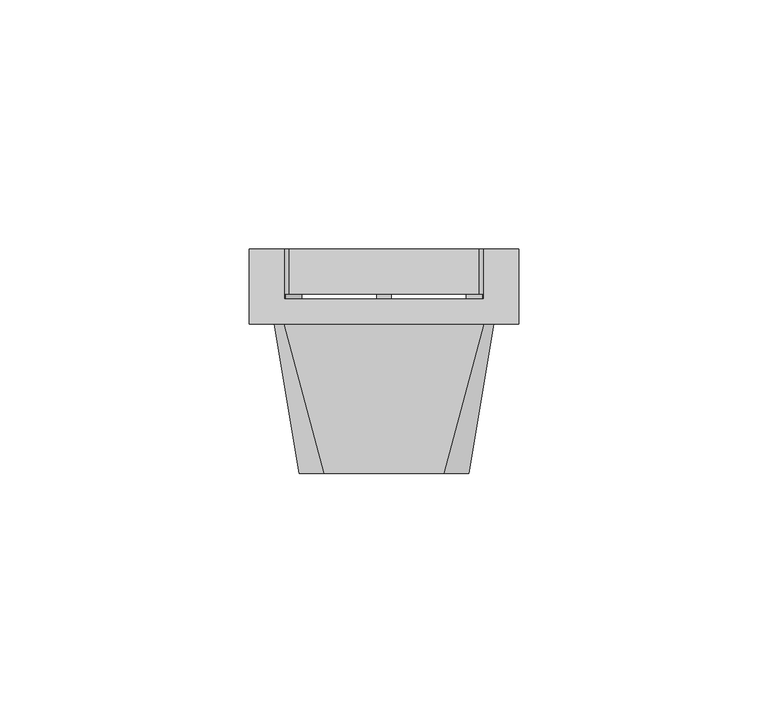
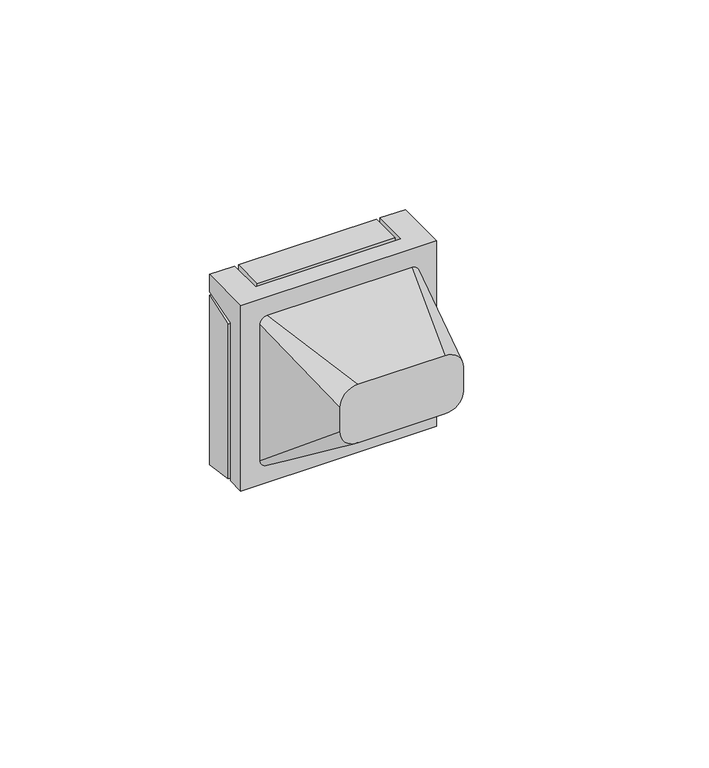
"""IFC4 building model written with IfcOpenShell, lengths in millimetres: proxy geometry, IEK_Brite_Механизм розетки 230В : 230 В PE+шт.+кр. IP44_РСбш10-3-44-БрА."""

from ifc_helpers import new_model, si_unit, point, frame, frame_2d, origin, origin_2d, place, context, project, spatial, polyline, circle_curve, ellipse_curve, trimmed, segment, composite_curve, outline, extrude, faceted_brep, source, transform, mapped, element, save
from ifc_brep_helpers import plane_surface, cylinder_surface, revolved_surface, spline_surface, advanced_brep


def electrical_fixtures_96b55c73(model_context):
    return source(origin(), model_context, "Body", "SolidModel", [
        faceted_brep([(20.0, 15.0, 27.0), (27.0, 15.0, 27.0), (27.0, 15.0, 22.0), (20.0, 15.0, 22.0), (-27.0, 15.0, 27.0), (-20.0, 15.0, 27.0), (-20.0, 15.0, 22.0), (-27.0, 15.0, 22.0), (-27.0, 0.0, 27.0), (-27.0, 0.0, -27.0), (27.0, 0.0, -27.0), (27.0, 0.0, 27.0), (-27.0, 5.0, 19.001454), (-27.0, 5.0, -27.0), (27.0, 5.0, -27.0), (27.0, 5.0, 19.001454), (20.0, 5.0, 27.0), (-20.0, 5.0, 27.0), (20.0, 5.0, 19.001454), (-20.0, 5.0, 19.001454), (18.7443645, 5.0, -3.1615677), (18.7443645, 5.0, 2.8384323), (4.7443645, 5.0, 2.8384323), (4.7443645, 5.0, -3.1615677), (-18.7443645, 5.0, 2.8384323), (-18.7443645, 5.0, -3.1615677), (-4.7443645, 5.0, -3.1615677), (-4.7443645, 5.0, 2.8384323), (18.7443645, 1.865818, 2.8384323), (18.7443645, 1.865818, -3.1615677), (4.7443645, 1.865818, -3.1615677), (4.7443645, 1.865818, 2.8384323), (-18.7443645, 1.865818, 2.8384323), (-4.7443645, 1.865818, 2.8384323), (-4.7443645, 1.865818, -3.1615677), (-18.7443645, 1.865818, -3.1615677)], [[[0, 1, 2, 3]], [[4, 5, 6, 7]], [[8, 9, 10, 11]], [[9, 8, 4, 7, 12, 13]], [[10, 9, 13, 14]], [[11, 10, 14, 15, 2, 1]], [[8, 11, 1, 0, 16, 17, 5, 4]], [[18, 15, 14, 13, 12, 19, 17, 16], [20, 21, 22, 23], [24, 25, 26, 27]], [[18, 16, 0, 3]], [[17, 19, 6, 5]], [[19, 12, 7, 6]], [[15, 18, 3, 2]], [[28, 29, 30, 31]], [[29, 28, 21, 20]], [[30, 29, 20, 23]], [[31, 30, 23, 22]], [[28, 31, 22, 21]], [[32, 33, 34, 35]], [[32, 35, 25, 24]], [[35, 34, 26, 25]], [[34, 33, 27, 26]], [[33, 32, 24, 27]]]),
        faceted_brep([(19.0, 15.0, 27.0), (19.0, 15.0, 21.0083131), (27.0, 15.0, 21.0083131), (27.0, 15.0, -28.4237578), (-27.0, 15.0, -28.4237578), (-27.0, 15.0, 21.0083131), (-19.0, 15.0, 21.0083131), (-19.0, 15.0, 27.0), (19.0, 6.0, 27.0), (-19.0, 6.0, 27.0), (-19.0, 6.0, 18.001454), (-27.0, 6.0, 18.001454), (-27.0, 6.0, -27.0), (27.0, 6.0, -27.0), (27.0, 6.0, 18.001454), (19.0, 6.0, 18.001454), (18.7443645, 6.0, 2.8384323), (18.7443645, 6.0, -3.1615677), (4.7443645, 6.0, -3.1615677), (4.7443645, 6.0, 2.8384323), (-18.7443645, 6.0, -3.1615677), (-18.7443645, 6.0, 2.8384323), (-4.7443645, 6.0, 2.8384323), (-4.7443645, 6.0, -3.1615677), (18.7443645, 10.0, 2.8384323), (4.7443645, 10.0, 2.8384323), (4.7443645, 10.0, -3.1615677), (18.7443645, 10.0, -3.1615677), (-18.7443645, 10.0, 2.8384323), (-18.7443645, 10.0, -3.1615677), (-4.7443645, 10.0, -3.1615677), (-4.7443645, 10.0, 2.8384323)], [[[0, 1, 2, 3, 4, 5, 6, 7]], [[8, 9, 10, 11, 12, 13, 14, 15], [16, 17, 18, 19], [20, 21, 22, 23]], [[1, 0, 8, 15]], [[2, 1, 15, 14]], [[3, 2, 14, 13]], [[5, 4, 12, 11]], [[6, 5, 11, 10]], [[7, 6, 10, 9]], [[0, 7, 9, 8]], [[4, 3, 13, 12]], [[24, 25, 26, 27]], [[24, 27, 17, 16]], [[27, 26, 18, 17]], [[26, 25, 19, 18]], [[25, 24, 16, 19]], [[28, 29, 30, 31]], [[29, 28, 21, 20]], [[30, 29, 20, 23]], [[31, 30, 23, 22]], [[28, 31, 22, 21]]]),
        advanced_brep(
        [(-12.0, -30.0, 17.0), (-17.0, -30.0, 12.0), (-17.0, -30.0, 5.0), (-12.0, -30.0, 0.0), (12.0, -30.0, 0.0), (17.0, -30.0, 5.0), (17.0, -30.0, 12.0), (12.0, -30.0, 17.0), (-20.0, 0.0, 22.0), (20.0, 0.0, 22.0), (22.0, 0.0, 20.0), (22.0, 0.0, -20.0), (20.0, 0.0, -22.0), (-20.0, 0.0, -22.0), (-22.0, 0.0, -20.0), (-22.0, 0.0, 20.0), (-11.8753617, 0.0, 0.0), (-6.3904783, 0.0, 0.0), (-3.0105286, 0.0, 0.0), (3.0105286, 0.0, 0.0), (6.3904783, 0.0, 0.0), (11.8753617, 0.0, 0.0), (-1.7917908, 0.0, 19.3280847), (-1.7917908, 0.0, 16.8280847), (0.0, 0.0, 16.8280847), (1.7917908, 0.0, 16.8280847), (1.7917908, 0.0, 19.3280847), (0.0, 0.0, 19.3280847), (-1.7917908, 0.0, -19.3280847), (0.0, 0.0, -19.3280847), (1.7917908, 0.0, -19.3280847), (1.7917908, 0.0, -16.8280847), (0.0, 0.0, -16.8280847), (-1.7917908, 0.0, -16.8280847), (0.0, -3.6435209, -19.3280847), (-1.7917908, -3.6435209, -19.3280847), (-1.7917908, -7.0526118, -16.8280847), (0.0, -7.0526118, -16.8280847), (1.7917908, -7.0526118, -16.8280847), (1.7917908, -3.6435209, -19.3280847), (-11.8753617, -13.4962918, 0.0), (-6.3904783, -13.4962918, 0.0), (-3.0105286, -13.4962918, 0.0), (3.0105286, -13.4962918, 0.0), (6.3904783, -13.4962918, 0.0), (11.8753617, -13.4962918, 0.0), (-1.7917908, -13.4962918, 19.3280847), (0.0, -13.4962918, 19.3280847), (1.7917908, -13.4962918, 19.3280847), (1.7917908, -13.4962918, 16.8280847), (0.0, -13.4962918, 16.8280847), (-1.7917908, -13.4962918, 16.8280847)],
        [
            (0, 1, circle_curve(frame((-12.0, -30.0, 12.0), z_axis=(0.0, -1.0, 0.0), x_axis=(1.0, 0.0, 0.0)), 5.0)),
            (1, 2),
            (2, 3, circle_curve(frame((-12.0, -30.0, 5.0), z_axis=(0.0, -1.0, 0.0), x_axis=(1.0, 0.0, 0.0)), 5.0)),
            (3, 4),
            (4, 5, circle_curve(frame((12.0, -30.0, 5.0), z_axis=(0.0, -1.0, 0.0), x_axis=(1.0, 0.0, 0.0)), 5.0)),
            (5, 6),
            (6, 7, circle_curve(frame((12.0, -30.0, 12.0), z_axis=(0.0, -1.0, 0.0), x_axis=(1.0, 0.0, 0.0)), 5.0)),
            (7, 0),
            (8, 9),
            (9, 10, circle_curve(frame((20.0, 0.0, 20.0), z_axis=(0.0, 1.0, 0.0), x_axis=(1.0, 0.0, 0.0)), 2.0)),
            (10, 11),
            (11, 12, circle_curve(frame((20.0, 0.0, -20.0), z_axis=(0.0, 1.0, 0.0), x_axis=(1.0, 0.0, 0.0)), 2.0)),
            (12, 13),
            (13, 14, circle_curve(frame((-20.0, 0.0, -20.0), z_axis=(0.0, 1.0, 0.0), x_axis=(1.0, 0.0, 0.0)), 2.0)),
            (14, 15),
            (15, 8, circle_curve(frame((-20.0, 0.0, 20.0), z_axis=(0.0, 1.0, 0.0), x_axis=(1.0, 0.0, 0.0)), 2.0)),
            (16, 17, circle_curve(frame((-9.13292, 0.0, 0.0), z_axis=(0.0, -1.0, 0.0), x_axis=(1.0, 0.0, 0.0)), 2.7424417)),
            (17, 16, circle_curve(frame((-9.13292, 0.0, 0.0), z_axis=(0.0, -1.0, 0.0), x_axis=(1.0, 0.0, 0.0)), 2.7424417)),
            (18, 19, circle_curve(frame((0.0, 0.0, 0.0), z_axis=(0.0, -1.0, 0.0), x_axis=(1.0, 0.0, 0.0)), 3.0105286)),
            (19, 18, circle_curve(frame((0.0, 0.0, 0.0), z_axis=(0.0, -1.0, 0.0), x_axis=(1.0, 0.0, 0.0)), 3.0105286)),
            (20, 21, circle_curve(frame((9.13292, 0.0, 0.0), z_axis=(0.0, -1.0, 0.0), x_axis=(1.0, 0.0, 0.0)), 2.7424417)),
            (21, 20, circle_curve(frame((9.13292, 0.0, 0.0), z_axis=(0.0, -1.0, 0.0), x_axis=(1.0, 0.0, 0.0)), 2.7424417)),
            (22, 23),
            (23, 24),
            (24, 25),
            (25, 26),
            (26, 27),
            (27, 22),
            (28, 29),
            (29, 30),
            (30, 31),
            (31, 32),
            (32, 33),
            (33, 28),
            (7, 9),
            (8, 0),
            (6, 10),
            (5, 11),
            (4, 12),
            (3, 13),
            (34, 35),
            (35, 36),
            (36, 37),
            (37, 38),
            (38, 39),
            (39, 34),
            (2, 14),
            (1, 15),
            (40, 41, circle_curve(frame((-9.13292, -13.4962918, 0.0), z_axis=(0.0, 1.0, 0.0), x_axis=(1.0, 0.0, 0.0)), 2.7424417)),
            (41, 40, circle_curve(frame((-9.13292, -13.4962918, 0.0), z_axis=(0.0, 1.0, 0.0), x_axis=(1.0, 0.0, 0.0)), 2.7424417)),
            (42, 43, circle_curve(frame((0.0, -13.4962918, 0.0), z_axis=(0.0, 1.0, 0.0), x_axis=(1.0, 0.0, 0.0)), 3.0105286)),
            (43, 42, circle_curve(frame((0.0, -13.4962918, 0.0), z_axis=(0.0, 1.0, 0.0), x_axis=(1.0, 0.0, 0.0)), 3.0105286)),
            (44, 45, circle_curve(frame((9.13292, -13.4962918, 0.0), z_axis=(0.0, 1.0, 0.0), x_axis=(1.0, 0.0, 0.0)), 2.7424417)),
            (45, 44, circle_curve(frame((9.13292, -13.4962918, 0.0), z_axis=(0.0, 1.0, 0.0), x_axis=(1.0, 0.0, 0.0)), 2.7424417)),
            (46, 47),
            (47, 48),
            (48, 49),
            (49, 50),
            (50, 51),
            (51, 46),
            (41, 17),
            (16, 40),
            (43, 19),
            (18, 42),
            (45, 21),
            (20, 44),
            (51, 23),
            (22, 46),
            (50, 24),
            (49, 25),
            (48, 26),
            (47, 27),
            (28, 35),
            (34, 29),
            (39, 30),
            (38, 31),
            (37, 32),
            (36, 33),
        ],
        [
            plane_surface(frame((0.0, -30.0, 8.5), z_axis=(0.0, -1.0, 0.0), x_axis=(-1.0, 0.0, 0.0))),
            plane_surface(frame((0.0, 0.0, 0.0), z_axis=(0.0, 1.0, 0.0), x_axis=(-1.0, 0.0, 0.0))),
            plane_surface(frame((0.0, 0.0, 22.0), z_axis=(0.0, -0.16439898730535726, 0.9863939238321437), x_axis=(-1.0, 0.0, 0.0))),
            spline_surface(2, 1, [[(22.0, 0.0, 20.0), (17.0, -30.0, 12.0)], [(22.0, 0.0, 22.0), (17.0, -30.0, 17.0)], [(20.0, 0.0, 22.0), (12.0, -30.0, 17.0)]], [3, 3], [2, 2], [0.0, 1.0], [0.0, 1.0], weights=[[1.0, 1.0], [0.7071067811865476, 0.7071067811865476], [1.0, 1.0]]),
            plane_surface(frame((22.0, 0.0, 0.0), z_axis=(0.9863939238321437, -0.1643989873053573, 0.0), x_axis=(0.0, 0.0, 1.0))),
            spline_surface(2, 1, [[(20.0, 0.0, -22.0), (12.0, -30.0, 0.0)], [(22.0, 0.0, -22.0), (17.0, -30.0, 0.0)], [(22.0, 0.0, -20.0), (17.0, -30.0, 5.0)]], [3, 3], [2, 2], [0.0, 1.0], [0.0, 1.0], weights=[[1.0, 1.0], [0.7071067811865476, 0.7071067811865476], [1.0, 1.0]]),
            plane_surface(frame((0.0, 0.0, -22.0), z_axis=(0.0, -0.591363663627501, -0.8064049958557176), x_axis=(1.0, 0.0, 0.0))),
            spline_surface(2, 1, [[(-22.0, 0.0, -20.0), (-17.0, -30.0, 5.0)], [(-22.0, 0.0, -22.0), (-17.0, -30.0, 0.0)], [(-20.0, 0.0, -22.0), (-12.0, -30.0, 0.0)]], [3, 3], [2, 2], [0.0, 1.0], [0.0, 1.0], weights=[[1.0, 1.0], [0.7071067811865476, 0.7071067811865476], [1.0, 1.0]]),
            plane_surface(frame((-22.0, 0.0, 0.0), z_axis=(-0.9863939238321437, -0.1643989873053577, 0.0), x_axis=(0.0, 0.0, -1.0))),
            spline_surface(2, 1, [[(-20.0, 0.0, 22.0), (-12.0, -30.0, 17.0)], [(-22.0, 0.0, 22.0), (-17.0, -30.0, 17.0)], [(-22.0, 0.0, 20.0), (-17.0, -30.0, 12.0)]], [3, 3], [2, 2], [0.0, 1.0], [0.0, 1.0], weights=[[1.0, 1.0], [0.7071067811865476, 0.7071067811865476], [1.0, 1.0]]),
            plane_surface(frame((-6.3904783, -13.4962918, 0.0), z_axis=(0.0, 1.0, 0.0), x_axis=(0.0, 0.0, 1.0))),
            revolved_surface(polyline([(-6.3904783, -13.4962918, 0.0), (-6.3904783, 0.0, 0.0)]), (-9.13292, 0.0, 0.0), (0.0, -1.0, 0.0)),
            revolved_surface(polyline([(3.0105286, -13.4962918, 0.0), (3.0105286, 0.0, 0.0)]), (0.0, -2.0, 0.0), (0.0, -1.0, 0.0)),
            revolved_surface(polyline([(11.875361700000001, -13.4962918, 0.0), (11.875361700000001, 0.0, 0.0)]), (9.13292, -2.0, 0.0), (0.0, -1.0, 0.0)),
            plane_surface(frame((-1.7917908, -13.4962918, 19.3280847), z_axis=(1.0, 0.0, 0.0), x_axis=(0.0, 1.0, 0.0))),
            plane_surface(frame((-1.7917908, -13.4962918, 16.8280847), z_axis=(0.0, 0.0, 1.0), x_axis=(0.0, 1.0, 0.0))),
            plane_surface(frame((0.0, -13.4962918, 16.8280847), z_axis=(0.0, 0.0, 1.0), x_axis=(0.0, 1.0, 0.0))),
            plane_surface(frame((1.7917908, -13.4962918, 16.8280847), z_axis=(-1.0, 0.0, 0.0), x_axis=(0.0, 1.0, 0.0))),
            plane_surface(frame((1.7917908, -13.4962918, 19.3280847), z_axis=(0.0, 0.0, -1.0), x_axis=(0.0, 1.0, 0.0))),
            plane_surface(frame((0.0, -13.4962918, 19.3280847), z_axis=(0.0, 0.0, -1.0), x_axis=(0.0, 1.0, 0.0))),
            plane_surface(frame((-1.7917908, -13.4962918, -19.3280847), z_axis=(0.0, 0.0, 1.0), x_axis=(0.0, 1.0, 0.0))),
            plane_surface(frame((0.0, -13.4962918, -19.3280847), z_axis=(0.0, 0.0, 1.0), x_axis=(0.0, 1.0, 0.0))),
            plane_surface(frame((1.7917908, -13.4962918, -19.3280847), z_axis=(-1.0, 0.0, 0.0), x_axis=(0.0, 1.0, 0.0))),
            plane_surface(frame((1.7917908, -13.4962918, -16.8280847), z_axis=(0.0, 0.0, -1.0), x_axis=(0.0, 1.0, 0.0))),
            plane_surface(frame((0.0, -13.4962918, -16.8280847), z_axis=(0.0, 0.0, -1.0), x_axis=(0.0, 1.0, 0.0))),
            plane_surface(frame((-1.7917908, -13.4962918, -16.8280847), z_axis=(1.0, 0.0, 0.0), x_axis=(0.0, 1.0, 0.0))),
        ],
        [
            (0, [[1, 2, 3, 4, 5, 6, 7, 8]]),
            (1, [[9, 10, 11, 12, 13, 14, 15, 16], [17, 18], [19, 20], [21, 22], [23, 24, 25, 26, 27, 28], [29, 30, 31, 32, 33, 34]]),
            (2, [[-8, 35, -9, 36]]),
            (3, [[-7, 37, -10, -35]]),
            (4, [[-6, 38, -11, -37]]),
            (5, [[-5, 39, -12, -38]]),
            (6, [[-4, 40, -13, -39], [41, 42, 43, 44, 45, 46]]),
            (7, [[-3, 47, -14, -40]]),
            (8, [[-2, 48, -15, -47]]),
            (9, [[-1, -36, -16, -48]]),
            (10, [[49, 50]]),
            (10, [[51, 52]]),
            (10, [[53, 54]]),
            (10, [[55, 56, 57, 58, 59, 60]]),
            (11, [[-50, 61, -17, 62]]),
            (11, [[-49, -62, -18, -61]]),
            (12, [[-52, 63, -19, 64]]),
            (12, [[-51, -64, -20, -63]]),
            (13, [[-54, 65, -21, 66]]),
            (13, [[-53, -66, -22, -65]]),
            (14, [[-60, 67, -23, 68]]),
            (15, [[-59, 69, -24, -67]]),
            (16, [[-58, 70, -25, -69]]),
            (17, [[-57, 71, -26, -70]]),
            (18, [[-56, 72, -27, -71]]),
            (19, [[-55, -68, -28, -72]]),
            (20, [[73, -41, 74, -29]]),
            (21, [[-74, -46, 75, -30]]),
            (22, [[-75, -45, 76, -31]]),
            (23, [[-76, -44, 77, -32]]),
            (24, [[-77, -43, 78, -33]]),
            (25, [[-73, -34, -78, -42]]),
        ],
    ),
        extrude(outline(composite_curve([segment(trimmed(circle_curve(frame_2d((6.4251956, 19.2322549)), 1.2539127), [point((7.6710794, 19.3739261))], [point((5.5330873, 18.3510967))], False, "CARTESIAN"), True, "CONTINUOUS"), segment(polyline([(5.5330873, 18.3510967), (-1.7, 17.5095674), (-1.7, 18.7042816), (7.6710794, 19.3739261)]), True, "CONTINUOUS")], self_intersect=False)), frame((-1.5, 0.0, 0.0), z_axis=(1.0, 0.0, 0.0), x_axis=(0.0, 1.0, 0.0)), (0.0, 0.0, 1.0), 3.0),
        extrude(outline(composite_curve([segment(polyline([(7.6710794, -19.3739261), (-1.7, -18.7042816), (-1.7, -17.5095674), (5.5330873, -18.3510967)]), True, "CONTINUOUS"), segment(trimmed(circle_curve(frame_2d((6.4251956, -19.2322549)), 1.2539127), [point((5.5330873, -18.3510967))], [point((7.6710794, -19.3739261))], False, "CARTESIAN"), True, "CONTINUOUS")], self_intersect=False)), frame((-1.5, 0.0, 0.0), z_axis=(1.0, 0.0, 0.0), x_axis=(0.0, 1.0, 0.0)), (0.0, 0.0, 1.0), 3.0),
        advanced_brep(
        [(0.0, 0.078125, -2.8986917), (0.0, 0.078125, 2.8986917), (0.0, 0.8649081, 0.0), (0.0, -1.7, -2.8986917), (0.0, -1.7, 2.8986917), (0.0, -1.7, 0.0)],
        [
            (0, 1, circle_curve(frame((0.0, 0.078125, 0.0), z_axis=(0.0, 1.0, 0.0), x_axis=(0.0, 0.0, 1.0)), 2.8986917)),
            (1, 2, ellipse_curve(frame((0.0, 0.078125, 0.15625), z_axis=(-1.0, 0.0, 0.0), x_axis=(0.0, 0.0, 1.0)), 2.7424417, 0.7880633)),
            (2, 0, ellipse_curve(frame((0.0, 0.078125, -0.15625), z_axis=(-1.0, 0.0, 0.0), x_axis=(0.0, 0.0, -1.0)), 2.7424417, 0.7880633)),
            (1, 0, circle_curve(frame((0.0, 0.078125, 0.0), z_axis=(0.0, 1.0, 0.0), x_axis=(0.0, 0.0, 1.0)), 2.8986917)),
            (3, 4, circle_curve(frame((0.0, -1.7, 0.0), z_axis=(0.0, 1.0, 0.0), x_axis=(0.0, 0.0, 1.0)), 2.8986917)),
            (4, 1),
            (0, 3),
            (4, 3, circle_curve(frame((0.0, -1.7, 0.0), z_axis=(0.0, 1.0, 0.0), x_axis=(0.0, 0.0, 1.0)), 2.8986917)),
            (5, 4),
            (3, 5),
        ],
        [
            revolved_surface(trimmed(ellipse_curve(frame((0.0, 0.078125, 0.15625), z_axis=(1.0, 0.0, 0.0), x_axis=(0.0, 0.0, 1.0)), 2.7424417, 0.7880633), [point((0.0, 0.8649081, 0.0))], [point((0.0, 0.078125, 2.8986917))], True, "CARTESIAN"), (0.0, -3.0228134, 0.0), (0.0, -1.0, 0.0)),
            cylinder_surface(frame((0.0, -3.0228134, 0.0), z_axis=(0.0, -1.0, 0.0), x_axis=(0.0, 0.0, 1.0)), 2.8986917),
            plane_surface(frame((0.0, -1.7, 0.0), z_axis=(0.0, -1.0, 0.0), x_axis=(0.0, 0.0, 1.0))),
        ],
        [
            (0, [[1, 2, 3]]),
            (0, [[4, -3, -2]]),
            (1, [[5, 6, -1, 7]]),
            (1, [[8, -7, -4, -6]]),
            (2, [[9, -5, 10]]),
            (2, [[-10, -8, -9]]),
        ],
    ),
        extrude(outline(composite_curve([segment(polyline([(3.2980592, -16.488464), (11.3194768, -16.488464)]), True, "CONTINUOUS"), segment(trimmed(circle_curve(origin_2d(), 20.0), [point((11.3194768, -16.488464))], [point((3.2980592, -19.7261959))], False, "CARTESIAN"), True, "CONTINUOUS"), segment(polyline([(3.2980592, -19.7261959), (3.2980592, -16.488464)]), True, "CONTINUOUS")], self_intersect=False)), frame((0.0, 0.0, 0.0), z_axis=(0.0, 1.0, 0.0), x_axis=(0.0, 0.0, 1.0)), (0.0, 0.0, 1.0), 8.0),
        extrude(outline(composite_curve([segment(polyline([(-3.2980592, -16.488464), (-3.2980592, -19.7261959)]), True, "CONTINUOUS"), segment(trimmed(circle_curve(origin_2d(), 20.0), [point((-3.2980592, -19.7261959))], [point((-11.3194768, -16.488464))], False, "CARTESIAN"), True, "CONTINUOUS"), segment(polyline([(-11.3194768, -16.488464), (-3.2980592, -16.488464)]), True, "CONTINUOUS")], self_intersect=False)), frame((0.0, 0.0, 0.0), z_axis=(0.0, 1.0, 0.0), x_axis=(0.0, 0.0, 1.0)), (0.0, 0.0, 1.0), 8.0),
        extrude(outline(composite_curve([segment(polyline([(3.2980592, 16.488464), (3.2980592, 19.7261959)]), True, "CONTINUOUS"), segment(trimmed(circle_curve(origin_2d(), 20.0), [point((3.2980592, 19.7261959))], [point((11.3194768, 16.488464))], False, "CARTESIAN"), True, "CONTINUOUS"), segment(polyline([(11.3194768, 16.488464), (3.2980592, 16.488464)]), True, "CONTINUOUS")], self_intersect=False)), frame((0.0, 0.0, 0.0), z_axis=(0.0, 1.0, 0.0), x_axis=(0.0, 0.0, 1.0)), (0.0, 0.0, 1.0), 8.0),
        extrude(outline(composite_curve([segment(polyline([(-3.2980592, 16.488464), (-11.3194768, 16.488464)]), True, "CONTINUOUS"), segment(trimmed(circle_curve(origin_2d(), 20.0), [point((-11.3194768, 16.488464))], [point((-3.2980592, 19.7261959))], False, "CARTESIAN"), True, "CONTINUOUS"), segment(polyline([(-3.2980592, 19.7261959), (-3.2980592, 16.488464)]), True, "CONTINUOUS")], self_intersect=False)), frame((0.0, 0.0, 0.0), z_axis=(0.0, 1.0, 0.0), x_axis=(0.0, 0.0, 1.0)), (0.0, 0.0, 1.0), 8.0),
    ])


if __name__ == "__main__":
    model = new_model("IFC4")
    model_context = context("Model", 3, world=origin())
    ifc_project = project(units=[si_unit("LENGTHUNIT", "METRE", prefix="MILLI")], contexts=[model_context])
    site = spatial("IfcSite", under=ifc_project)
    building = spatial("IfcBuilding", under=site)
    placement = place(None, origin())
    electrical_fixtures_shape = electrical_fixtures_96b55c73(model_context)
    element("IfcBuildingElementProxy", 1, Name="IEK_Brite_Механизм розетки 230В : 230 В PE+шт.+кр. IP44_РСбш10-3-44-БрА", ObjectType="IEK_Brite_Механизм розетки 230В : 230 В PE+шт.+кр. IP44_РСбш10-3-44-БрА", at=placement, inside=building, context=model_context, shape_type="MappedRepresentation", body=[
        mapped(electrical_fixtures_shape, transform((0.0, 0.0, 0.0), x_axis=(1.0, 0.0, 0.0), y_axis=(0.0, 1.0, 0.0), z_axis=(0.0, 0.0, 1.0))),
    ])
    save(model, "model.ifc")
